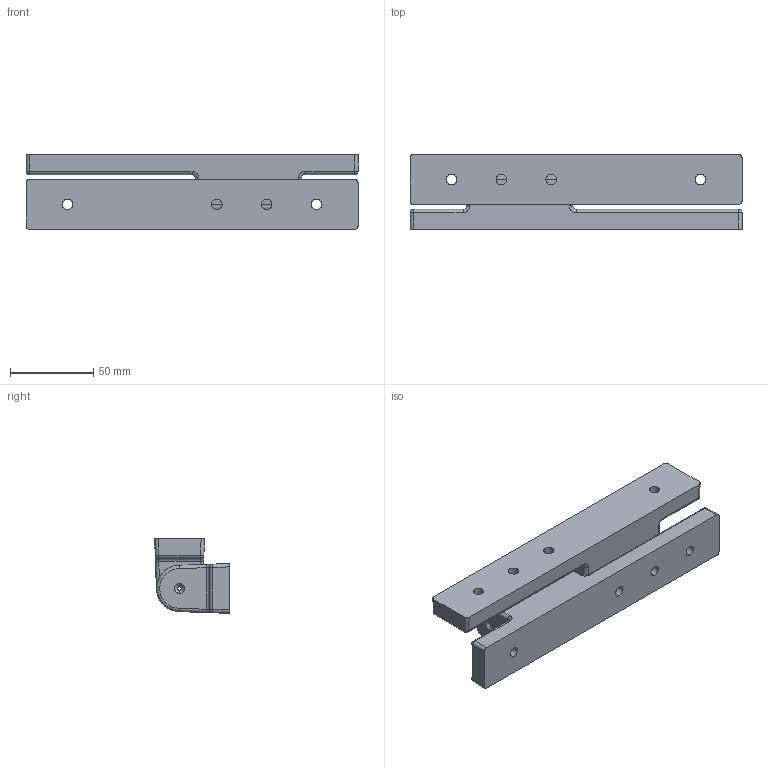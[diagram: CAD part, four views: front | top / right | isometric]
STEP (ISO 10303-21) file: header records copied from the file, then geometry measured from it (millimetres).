
FILE_DESCRIPTION (( 'STEP AP214' ), '1' );
FILE_NAME ('EFH-120-4.STEP', '2020-03-02T02:52:01', ( '' ), ( '' ), 'SwSTEP 2.0', 'SolidWorks 2019', '' );
FILE_SCHEMA (( 'AUTOMOTIVE_DESIGN' ));
Length unit declared in the file: millimetre
Products named in the file (3): EFH-120-4; EFH-120-4Hinge; Washer
Assembly tree (3 placements, depth 2):
  EFH-120-4
    EFH-120-4Hinge  x2
    Washer
Bounding box: 200 x 45 x 45 mm (x, y, z)
Volume: 242527.5 mm3; surface area: 46754 mm2
Topology: 3 solids, 3 shells, 142 faces, 324 edges, 180 vertices
Faces by surface type: cylinder 74, cone 20, plane 20, torus 12, sphere 8, bspline 8
Entity records: 2304 total; most frequent: CARTESIAN_POINT 542, DIRECTION 378, ORIENTED_EDGE 328, EDGE_CURVE 164, AXIS2_PLACEMENT_3D 154, VERTEX_POINT 94, EDGE_LOOP 86, CIRCLE 78
